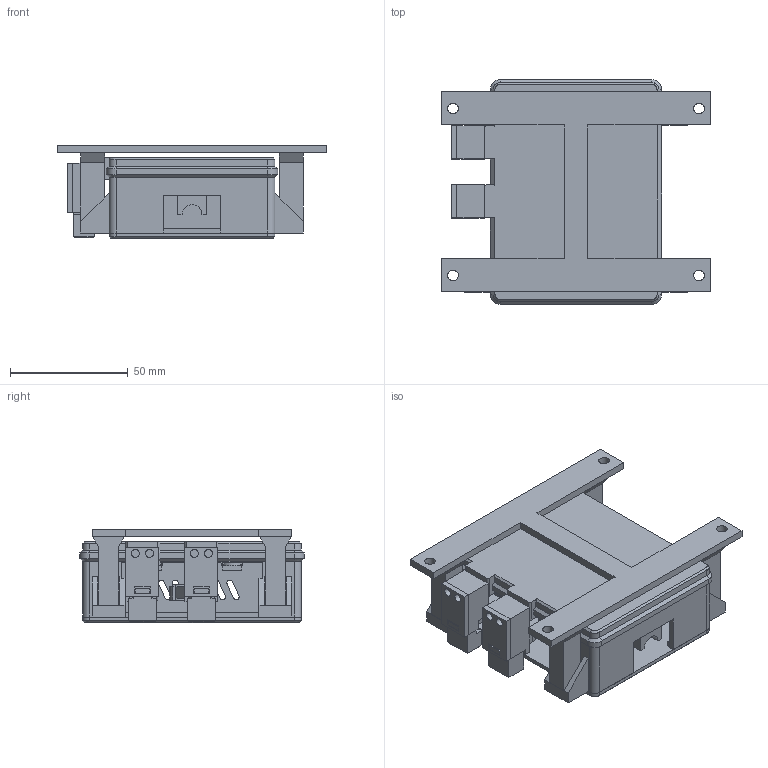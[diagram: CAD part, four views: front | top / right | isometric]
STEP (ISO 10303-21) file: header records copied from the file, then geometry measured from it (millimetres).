
FILE_DESCRIPTION(('Open CASCADE Model'),'2;1');
FILE_NAME('Open CASCADE Shape Model','2026-10-19T19:31:59',('Author'),( 'Open CASCADE'),'Open CASCADE STEP processor 7.9','build123d', 'Unknown');
FILE_SCHEMA(('AUTOMOTIVE_DESIGN { 1 0 10303 214 1 1 1 1 }'));
Length unit declared in the file: millimetre
Products named in the file (16): COMPOUND; lid; body; desk_bracket; pcb_clamp_left_front; pcb_clamp_left_rear; pcb_clamp_right_front; pcb_clamp_right_rear; reset_frame; reset_slider; reset_rear_keeper; reset_moving_magnet_keeper; boot_frame; boot_slider; boot_rear_keeper; boot_moving_magnet_keeper
Assembly tree (15 placements, depth 2):
  COMPOUND
    lid
    body
    desk_bracket
    pcb_clamp_left_front
    pcb_clamp_left_rear
    pcb_clamp_right_front
    pcb_clamp_right_rear
    reset_frame
    reset_slider
    reset_rear_keeper
    reset_moving_magnet_keeper
    boot_frame
    boot_slider
    boot_rear_keeper
    boot_moving_magnet_keeper
Bounding box: 114.3 x 95.2 x 39.6 mm (x, y, z)
Volume: 94142 mm3; surface area: 74128.8 mm2
Topology: 15 solids, 15 shells, 662 faces, 1788 edges, 1196 vertices
Faces by surface type: plane 522, cylinder 123, cone 16, bspline 1
Full cylindrical faces by diameter (mm): 3.4 x22, 4 x18, 4.5 x4
Entity records: 56222 total; most frequent: CARTESIAN_POINT 22358, DIRECTION 5577, LINE 4179, VECTOR 4179, ORIENTED_EDGE 3576, PCURVE 3576, DEFINITIONAL_REPRESENTATION 3576, EDGE_CURVE 1788
